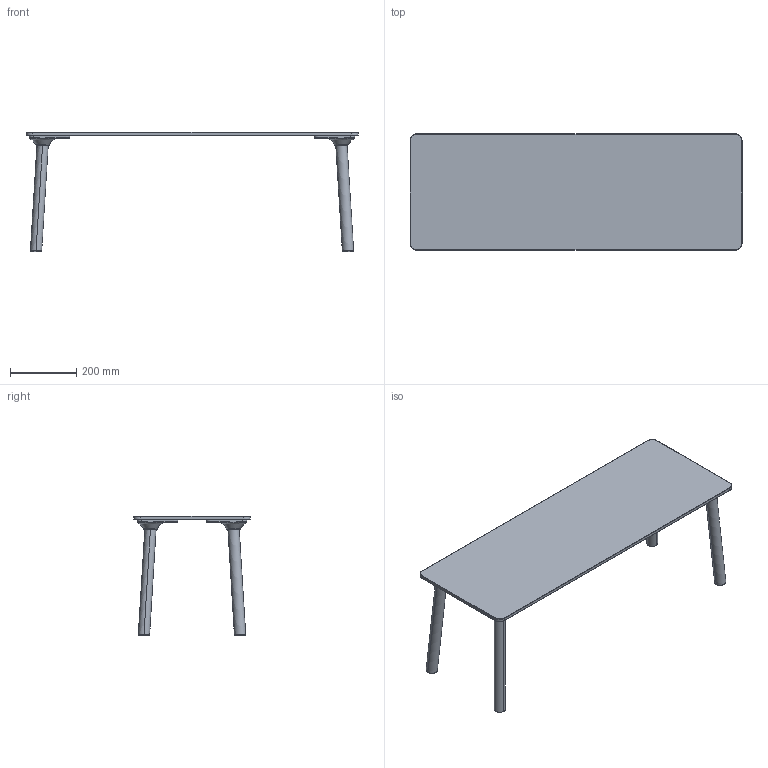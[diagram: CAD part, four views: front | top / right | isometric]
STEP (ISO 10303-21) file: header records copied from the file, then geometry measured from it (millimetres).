
FILE_DESCRIPTION (( 'STEP AP203' ), '1' );
FILE_NAME ('STEFANINO_H35_100X35.STEP', '2014-12-22T08:37:39', ( '' ), ( '' ), 'SwSTEP 2.0', 'SolidWorks 2014', '' );
FILE_SCHEMA (( 'CONFIG_CONTROL_DESIGN' ));
Length unit declared in the file: millimetre
Products named in the file (3): STEFANNINO_MOZZO_GAMBA; STEFANINO_H35_100X35; STEFANINO_PIANO_100X35
Assembly tree (5 placements, depth 2):
  STEFANINO_H35_100X35
    STEFANINO_PIANO_100X35
    STEFANNINO_MOZZO_GAMBA  x4
Bounding box: 1000 x 350 x 360.08 mm (x, y, z)
Volume: 5167407 mm3; surface area: 978261.1 mm2
Topology: 9 solids, 9 shells, 206 faces, 460 edges, 272 vertices
Faces by surface type: bspline 64, cylinder 56, plane 46, torus 36, cone 4
Entity records: 3529 total; most frequent: CARTESIAN_POINT 1639, DIRECTION 331, ORIENTED_EDGE 314, EDGE_CURVE 157, AXIS2_PLACEMENT_3D 143, VERTEX_POINT 92, CIRCLE 80, EDGE_LOOP 73
